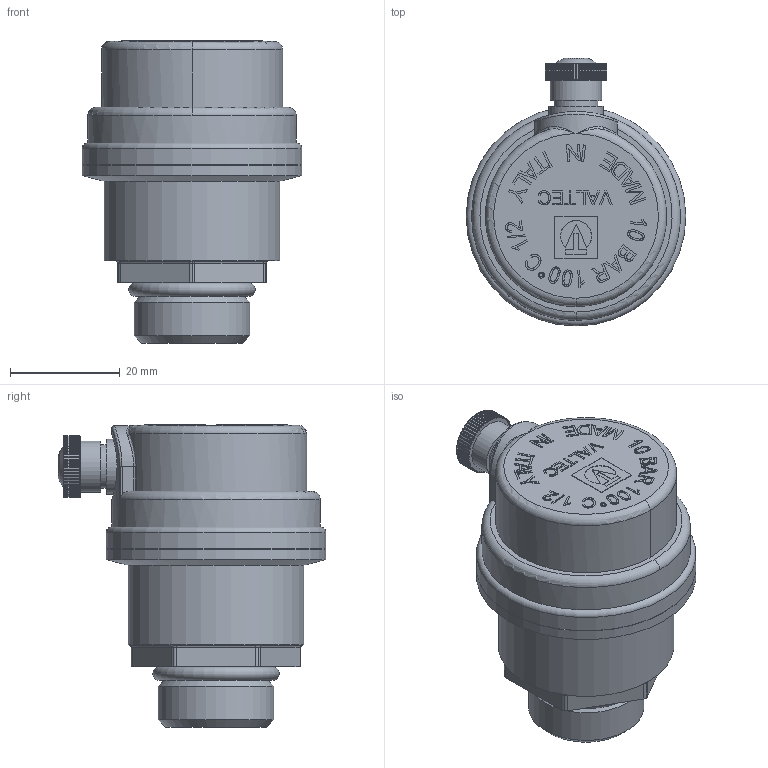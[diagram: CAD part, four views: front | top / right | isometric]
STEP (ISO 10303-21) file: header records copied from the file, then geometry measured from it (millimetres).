
FILE_DESCRIPTION(('TFLEX Exchange Step'),'2;1');
FILE_NAME('Automatic Air Vents 1_2 VT.502.NH.04.stp', '2023-09-12T15:48:58+03:00',('denis'),('Unknown organisation'),'TFLEX Exchange 2023.0','T-FLEX CAD','Unknown authorisation');
FILE_SCHEMA( ('AUTOMOTIVE_DESIGN { 1 0 10303 214 1 1 1 1 }') );
Length unit declared in the file: millimetre
Products named in the file (1): Nodes
Bounding box: 40 x 48.76 x 55.02 mm (x, y, z)
Volume: 42959.2 mm3; surface area: 10220.7 mm2
Topology: 3 solids, 4 shells, 2061 faces, 5222 edges, 3220 vertices
Faces by surface type: cylinder 952, plane 412, bspline 354, torus 338, cone 4, sphere 1
Full cylindrical faces by diameter (mm): 3.464 x1, 5 x1, 6 x1, 7.953 x1, 9.332 x1, 10 x1, 12 x1, 15 x1, 17.9 x1, 21 x1, 32 x1, 38 x1, 39 x1, 40 x2
Entity records: 97790 total; most frequent: CARTESIAN_POINT 55817, ORIENTED_EDGE 10440, DIRECTION 5795, EDGE_CURVE 5220, VERTEX_POINT 3220, B_SPLINE_CURVE_WITH_KNOTS 3076, EDGE_LOOP 2118, FACE_BOUND 2118
